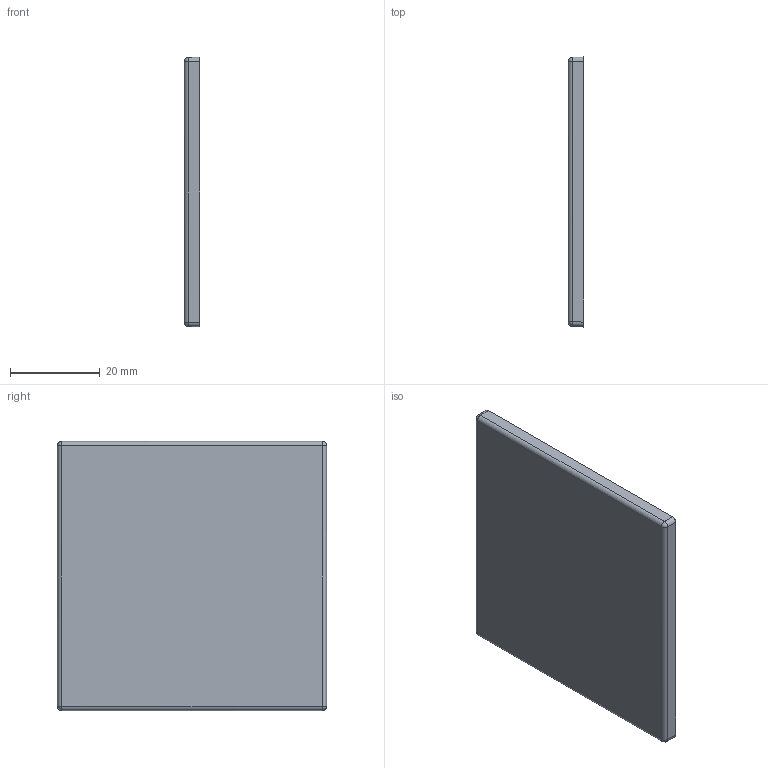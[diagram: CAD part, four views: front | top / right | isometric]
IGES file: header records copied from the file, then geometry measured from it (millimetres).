
Start section: C
Global section: file name: 8079-60.igs; native system: By Siemens PLM Incorporated; preprocessor: XPlus GENERIC/IGES 16.0.42; author: Author; organization: Title; date: 20230831.153854; units: millimetre
Bounding box: 3.5 x 60 x 60 mm (x, y, z)
Surface area: 7926.8 mm2 (no closed solid volume)
Topology: 0 solids, 0 shells, 20 faces, 82 edges, 82 vertices
Faces by surface type: bspline 20
